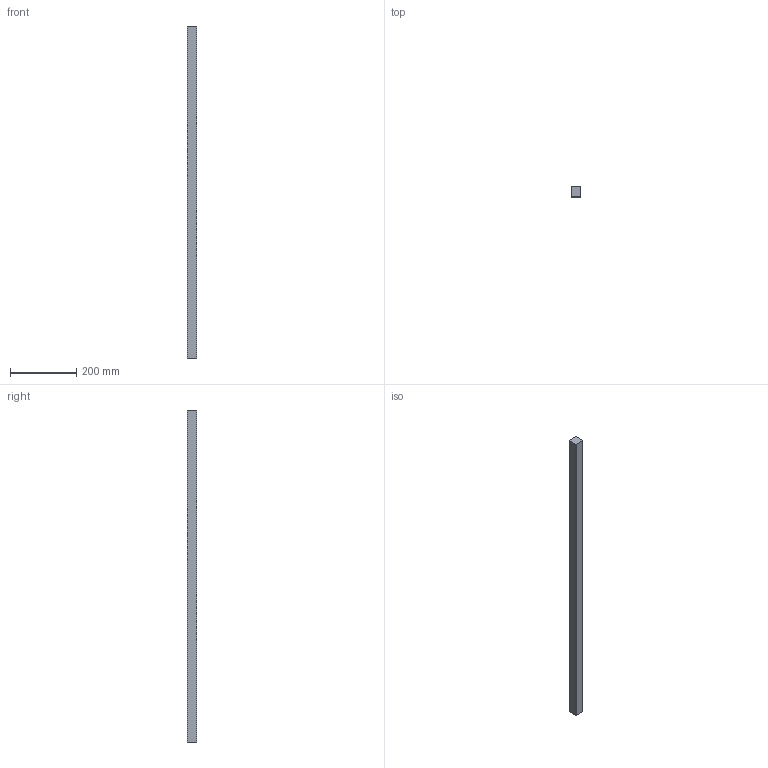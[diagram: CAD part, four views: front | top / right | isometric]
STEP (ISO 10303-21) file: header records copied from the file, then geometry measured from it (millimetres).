
FILE_DESCRIPTION(/* description */ (''),/* implementation_level */ '2;1');
FILE_NAME(/* name */ 'C:\Users\AMS43\Documents\Inventor\AMS\misumi\\X2\30B930DA30B730E330EB30D530EC30FC30E0\X0\_ipt\\X2\30B930DA30B730E330EB30D530EC30FC30E0\X0\_stp\AFFB-03030.ipt.stp',/* time_stamp */ '2016-10-06T11:39:55+09:00',/* author */ ('AMS43'),/* organization */ (''),/* preprocessor_version */ 'ST-DEVELOPER v15.2',/* originating_system */ 'Autodesk Inventor 2014',/* authorisation */ '');
FILE_SCHEMA (('AUTOMOTIVE_DESIGN { 1 0 10303 214 3 1 1 }'));
Length unit declared in the file: metre
Products named in the file (1): AFFB-03030
Bounding box: 30 x 30 x 1000 mm (x, y, z)
Volume: 899141.6 mm3; surface area: 120081.5 mm2
Topology: 1 solids, 1 shells, 10 faces, 24 edges, 16 vertices
Faces by surface type: plane 6, cylinder 4
Entity records: 327 total; most frequent: DIRECTION 54, CARTESIAN_POINT 51, ORIENTED_EDGE 48, EDGE_CURVE 24, AXIS2_PLACEMENT_3D 19, LINE 16, VECTOR 16, VERTEX_POINT 16
